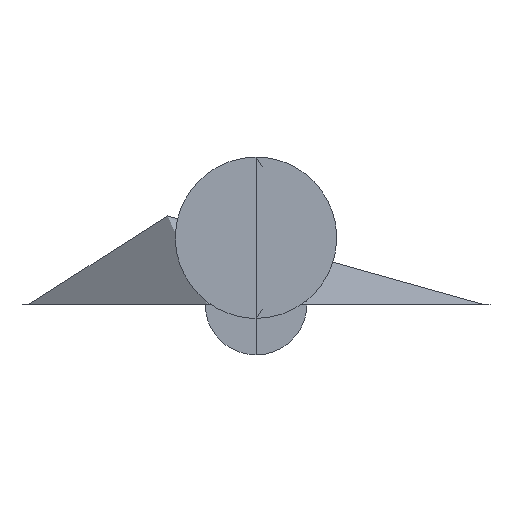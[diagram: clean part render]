
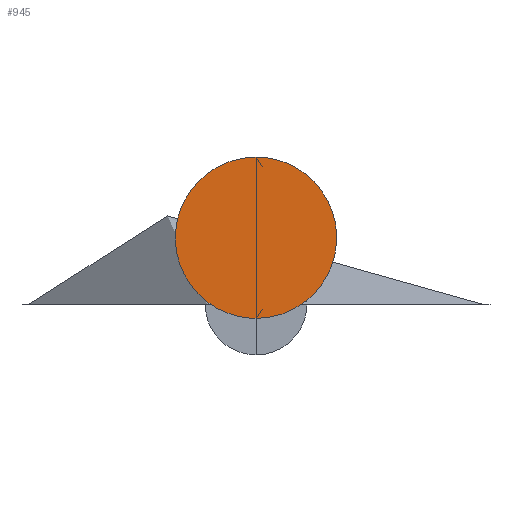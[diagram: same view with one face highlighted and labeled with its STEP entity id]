
A CAD part, top view. The second image highlights one B-rep face of the part: STEP entity #945.
In plain terms, the highlighted planar face has unit normal (0, 0, 1).
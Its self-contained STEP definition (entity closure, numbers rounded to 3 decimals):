
#129=PLANE('',#3853);
#945=ADVANCED_FACE('',(#1103),#129,.T.);
#1103=FACE_OUTER_BOUND('',#1270,.T.);
#1270=EDGE_LOOP('',(#1813,#1814));
#1813=ORIENTED_EDGE('',*,*,#2415,.T.);
#1814=ORIENTED_EDGE('',*,*,#2416,.T.);
#2415=EDGE_CURVE('',#3474,#3475,#2897,.T.);
#2416=EDGE_CURVE('',#3475,#3474,#2898,.T.);
#2897=(
BOUNDED_CURVE()
B_SPLINE_CURVE(2,(#8578,#8579,#8580,#8581,#8582),.UNSPECIFIED.,.F.,.F.)
B_SPLINE_CURVE_WITH_KNOTS((3,2,3),(-17.047,-12.785,
-8.523),.UNSPECIFIED.)
CURVE()
GEOMETRIC_REPRESENTATION_ITEM()
RATIONAL_B_SPLINE_CURVE((1.,0.707,1.,0.707,
1.))
REPRESENTATION_ITEM('')
);
#2898=(
BOUNDED_CURVE()
B_SPLINE_CURVE(2,(#8583,#8584,#8585,#8586,#8587),.UNSPECIFIED.,.F.,.F.)
B_SPLINE_CURVE_WITH_KNOTS((3,2,3),(-8.523,-4.262,0.),
 .UNSPECIFIED.)
CURVE()
GEOMETRIC_REPRESENTATION_ITEM()
RATIONAL_B_SPLINE_CURVE((1.,0.707,1.,0.707,
1.))
REPRESENTATION_ITEM('')
);
#3474=VERTEX_POINT('',#8576);
#3475=VERTEX_POINT('',#8577);
#3853=AXIS2_PLACEMENT_3D('',#8575,#3960,$);
#3960=DIRECTION('',(0.,0.,1.));
#8575=CARTESIAN_POINT('',(-79.018,11.198,601.608));
#8576=CARTESIAN_POINT('',(0.,156.035,601.608));
#8577=CARTESIAN_POINT('',(0.,24.398,601.608));
#8578=CARTESIAN_POINT('',(0.,156.035,601.608));
#8579=CARTESIAN_POINT('',(-65.819,156.035,601.608));
#8580=CARTESIAN_POINT('',(-65.819,90.217,601.608));
#8581=CARTESIAN_POINT('',(-65.819,24.398,601.608));
#8582=CARTESIAN_POINT('',(0.,24.398,601.608));
#8583=CARTESIAN_POINT('',(0.,24.398,601.608));
#8584=CARTESIAN_POINT('',(65.819,24.398,601.608));
#8585=CARTESIAN_POINT('',(65.819,90.217,601.608));
#8586=CARTESIAN_POINT('',(65.819,156.035,601.608));
#8587=CARTESIAN_POINT('',(0.,156.035,601.608));
